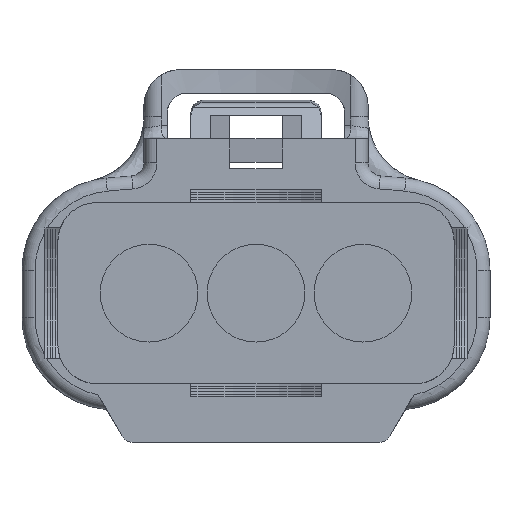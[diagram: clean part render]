
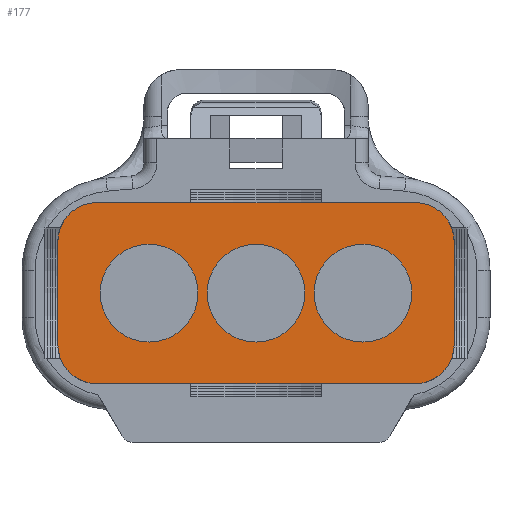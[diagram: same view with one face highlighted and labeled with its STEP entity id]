
A CAD part, left-side view. The second image highlights one B-rep face of the part: STEP entity #177.
In plain terms, the highlighted planar face has unit normal (-1, 0, 0).
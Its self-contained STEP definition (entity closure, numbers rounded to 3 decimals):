
#52=CARTESIAN_POINT('Axis2P3D Location',(-28.9,0.,0.)) ;
#57=CARTESIAN_POINT('Line Origine',(-28.9,8.2,6.65)) ;
#61=CARTESIAN_POINT('Vertex',(-28.9,20.4,6.65)) ;
#63=CARTESIAN_POINT('Vertex',(-28.9,-4.,6.65)) ;
#66=CARTESIAN_POINT('Axis2P3D Location',(-28.9,20.4,3.65)) ;
#70=CARTESIAN_POINT('Vertex',(-28.9,23.4,3.65)) ;
#73=CARTESIAN_POINT('Line Origine',(-28.9,23.4,-0.3)) ;
#77=CARTESIAN_POINT('Vertex',(-28.9,23.4,-4.25)) ;
#80=CARTESIAN_POINT('Axis2P3D Location',(-28.9,20.4,-4.25)) ;
#84=CARTESIAN_POINT('Vertex',(-28.9,20.4,-7.25)) ;
#87=CARTESIAN_POINT('Line Origine',(-28.9,8.2,-7.25)) ;
#91=CARTESIAN_POINT('Vertex',(-28.9,-4.,-7.25)) ;
#94=CARTESIAN_POINT('Axis2P3D Location',(-28.9,-4.,-4.25)) ;
#98=CARTESIAN_POINT('Vertex',(-28.9,-7.,-4.25)) ;
#101=CARTESIAN_POINT('Line Origine',(-28.9,-7.,-0.3)) ;
#105=CARTESIAN_POINT('Vertex',(-28.9,-7.,3.65)) ;
#108=CARTESIAN_POINT('Axis2P3D Location',(-28.9,-4.,3.65)) ;
#123=CARTESIAN_POINT('Axis2P3D Location',(-28.9,0.,-0.3)) ;
#127=CARTESIAN_POINT('Vertex',(-28.9,3.75,-0.3)) ;
#129=CARTESIAN_POINT('Vertex',(-28.9,-3.75,-0.3)) ;
#132=CARTESIAN_POINT('Axis2P3D Location',(-28.9,0.,-0.3)) ;
#141=CARTESIAN_POINT('Axis2P3D Location',(-28.9,8.2,-0.3)) ;
#145=CARTESIAN_POINT('Vertex',(-28.9,11.95,-0.3)) ;
#147=CARTESIAN_POINT('Vertex',(-28.9,4.45,-0.3)) ;
#150=CARTESIAN_POINT('Axis2P3D Location',(-28.9,8.2,-0.3)) ;
#159=CARTESIAN_POINT('Axis2P3D Location',(-28.9,16.4,-0.3)) ;
#163=CARTESIAN_POINT('Vertex',(-28.9,20.15,-0.3)) ;
#165=CARTESIAN_POINT('Vertex',(-28.9,12.65,-0.3)) ;
#168=CARTESIAN_POINT('Axis2P3D Location',(-28.9,16.4,-0.3)) ;
#53=DIRECTION('Axis2P3D Direction',(1.,0.,0.)) ;
#54=DIRECTION('Axis2P3D XDirection',(0.,1.,0.)) ;
#58=DIRECTION('Vector Direction',(0.,-1.,0.)) ;
#67=DIRECTION('Axis2P3D Direction',(1.,0.,0.)) ;
#74=DIRECTION('Vector Direction',(0.,0.,-1.)) ;
#81=DIRECTION('Axis2P3D Direction',(1.,0.,0.)) ;
#88=DIRECTION('Vector Direction',(0.,1.,0.)) ;
#95=DIRECTION('Axis2P3D Direction',(1.,0.,0.)) ;
#102=DIRECTION('Vector Direction',(0.,0.,1.)) ;
#109=DIRECTION('Axis2P3D Direction',(1.,0.,0.)) ;
#124=DIRECTION('Axis2P3D Direction',(1.,0.,0.)) ;
#133=DIRECTION('Axis2P3D Direction',(1.,0.,0.)) ;
#142=DIRECTION('Axis2P3D Direction',(1.,0.,0.)) ;
#151=DIRECTION('Axis2P3D Direction',(1.,0.,0.)) ;
#160=DIRECTION('Axis2P3D Direction',(1.,0.,0.)) ;
#169=DIRECTION('Axis2P3D Direction',(1.,0.,0.)) ;
#55=AXIS2_PLACEMENT_3D('Plane Axis2P3D',#52,#53,#54) ;
#68=AXIS2_PLACEMENT_3D('Circle Axis2P3D',#66,#67,$) ;
#82=AXIS2_PLACEMENT_3D('Circle Axis2P3D',#80,#81,$) ;
#96=AXIS2_PLACEMENT_3D('Circle Axis2P3D',#94,#95,$) ;
#110=AXIS2_PLACEMENT_3D('Circle Axis2P3D',#108,#109,$) ;
#125=AXIS2_PLACEMENT_3D('Circle Axis2P3D',#123,#124,$) ;
#134=AXIS2_PLACEMENT_3D('Circle Axis2P3D',#132,#133,$) ;
#143=AXIS2_PLACEMENT_3D('Circle Axis2P3D',#141,#142,$) ;
#152=AXIS2_PLACEMENT_3D('Circle Axis2P3D',#150,#151,$) ;
#161=AXIS2_PLACEMENT_3D('Circle Axis2P3D',#159,#160,$) ;
#170=AXIS2_PLACEMENT_3D('Circle Axis2P3D',#168,#169,$) ;
#114=ORIENTED_EDGE('',*,*,#65,.F.) ;
#115=ORIENTED_EDGE('',*,*,#72,.F.) ;
#116=ORIENTED_EDGE('',*,*,#79,.T.) ;
#117=ORIENTED_EDGE('',*,*,#86,.F.) ;
#118=ORIENTED_EDGE('',*,*,#93,.F.) ;
#119=ORIENTED_EDGE('',*,*,#100,.F.) ;
#120=ORIENTED_EDGE('',*,*,#107,.T.) ;
#121=ORIENTED_EDGE('',*,*,#112,.F.) ;
#138=ORIENTED_EDGE('',*,*,#131,.F.) ;
#139=ORIENTED_EDGE('',*,*,#136,.F.) ;
#156=ORIENTED_EDGE('',*,*,#149,.F.) ;
#157=ORIENTED_EDGE('',*,*,#154,.F.) ;
#174=ORIENTED_EDGE('',*,*,#167,.F.) ;
#175=ORIENTED_EDGE('',*,*,#172,.F.) ;
#140=FACE_BOUND('',#137,.T.) ;
#158=FACE_BOUND('',#155,.T.) ;
#176=FACE_BOUND('',#173,.T.) ;
#59=VECTOR('Line Direction',#58,1.) ;
#75=VECTOR('Line Direction',#74,1.) ;
#89=VECTOR('Line Direction',#88,1.) ;
#103=VECTOR('Line Direction',#102,1.) ;
#177=ADVANCED_FACE('\X2\FF8AFF9FFF70FF82\X0\ \X2\FF8EFF9EFF83FF9EFF68FF70\X0\',(#122,#140,#158,#176),#56,.F.) ;
#69=CIRCLE('generated circle',#68,3.) ;
#83=CIRCLE('generated circle',#82,3.) ;
#97=CIRCLE('generated circle',#96,3.) ;
#111=CIRCLE('generated circle',#110,3.) ;
#126=CIRCLE('generated circle',#125,3.75) ;
#135=CIRCLE('generated circle',#134,3.75) ;
#144=CIRCLE('generated circle',#143,3.75) ;
#153=CIRCLE('generated circle',#152,3.75) ;
#162=CIRCLE('generated circle',#161,3.75) ;
#171=CIRCLE('generated circle',#170,3.75) ;
#65=EDGE_CURVE('',#62,#64,#60,.T.) ;
#72=EDGE_CURVE('',#71,#62,#69,.T.) ;
#79=EDGE_CURVE('',#71,#78,#76,.T.) ;
#86=EDGE_CURVE('',#85,#78,#83,.T.) ;
#93=EDGE_CURVE('',#92,#85,#90,.T.) ;
#100=EDGE_CURVE('',#99,#92,#97,.T.) ;
#107=EDGE_CURVE('',#99,#106,#104,.T.) ;
#112=EDGE_CURVE('',#64,#106,#111,.T.) ;
#131=EDGE_CURVE('',#128,#130,#126,.F.) ;
#136=EDGE_CURVE('',#130,#128,#135,.F.) ;
#149=EDGE_CURVE('',#146,#148,#144,.F.) ;
#154=EDGE_CURVE('',#148,#146,#153,.F.) ;
#167=EDGE_CURVE('',#164,#166,#162,.F.) ;
#172=EDGE_CURVE('',#166,#164,#171,.F.) ;
#113=EDGE_LOOP('',(#114,#115,#116,#117,#118,#119,#120,#121)) ;
#137=EDGE_LOOP('',(#138,#139)) ;
#155=EDGE_LOOP('',(#156,#157)) ;
#173=EDGE_LOOP('',(#174,#175)) ;
#122=FACE_OUTER_BOUND('',#113,.T.) ;
#60=LINE('Line',#57,#59) ;
#76=LINE('Line',#73,#75) ;
#90=LINE('Line',#87,#89) ;
#104=LINE('Line',#101,#103) ;
#56=PLANE('',#55) ;
#62=VERTEX_POINT('',#61) ;
#64=VERTEX_POINT('',#63) ;
#71=VERTEX_POINT('',#70) ;
#78=VERTEX_POINT('',#77) ;
#85=VERTEX_POINT('',#84) ;
#92=VERTEX_POINT('',#91) ;
#99=VERTEX_POINT('',#98) ;
#106=VERTEX_POINT('',#105) ;
#128=VERTEX_POINT('',#127) ;
#130=VERTEX_POINT('',#129) ;
#146=VERTEX_POINT('',#145) ;
#148=VERTEX_POINT('',#147) ;
#164=VERTEX_POINT('',#163) ;
#166=VERTEX_POINT('',#165) ;
